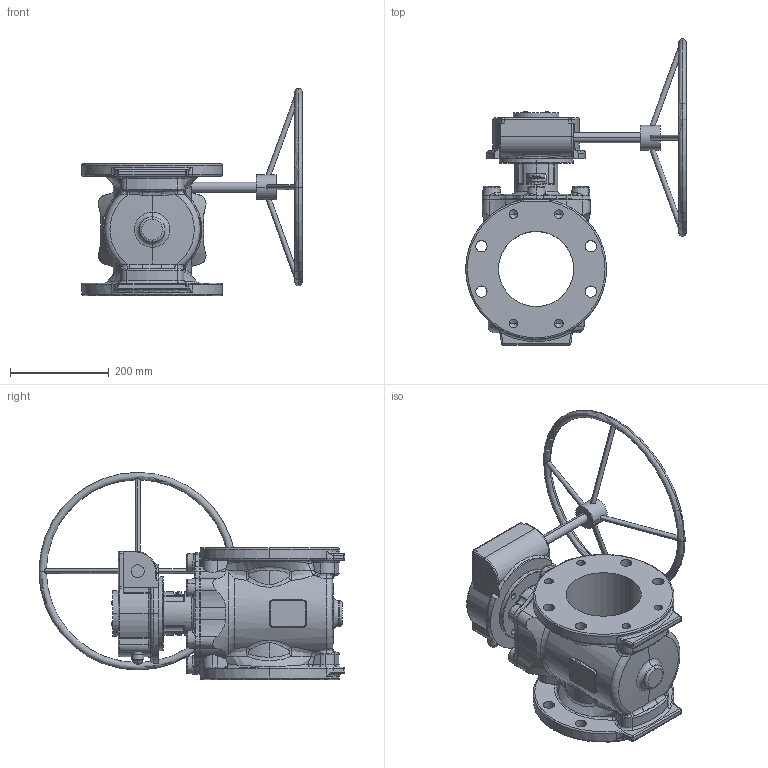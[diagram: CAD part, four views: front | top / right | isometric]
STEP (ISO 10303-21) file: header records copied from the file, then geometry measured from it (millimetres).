
FILE_DESCRIPTION (( 'STEP AP203' ), '1' );
FILE_NAME ('O_764_01_DN150_1XXXXXX020_REV01.step', '2021-02-01T09:28:49', ( '' ), ( '' ), 'SwSTEP 2.0', 'SolidWorks 2019', '' );
FILE_SCHEMA (( 'CONFIG_CONTROL_DESIGN' ));
Length unit declared in the file: millimetre
Products named in the file (1): O_764_01_DN150_1XXXXXX020_REV01
Bounding box: 446.42 x 619.68 x 419.5 mm (x, y, z)
Volume: 12238177.6 mm3; surface area: 823158.8 mm2
Topology: 1 solids, 1 shells, 920 faces, 2280 edges, 1353 vertices
Faces by surface type: cylinder 312, torus 209, plane 166, bspline 141, cone 74, sphere 18
Entity records: 43300 total; most frequent: CARTESIAN_POINT 22401, ORIENTED_EDGE 4476, DIRECTION 4391, EDGE_CURVE 2238, AXIS2_PLACEMENT_3D 1911, VERTEX_POINT 1353, CIRCLE 1131, EDGE_LOOP 991
